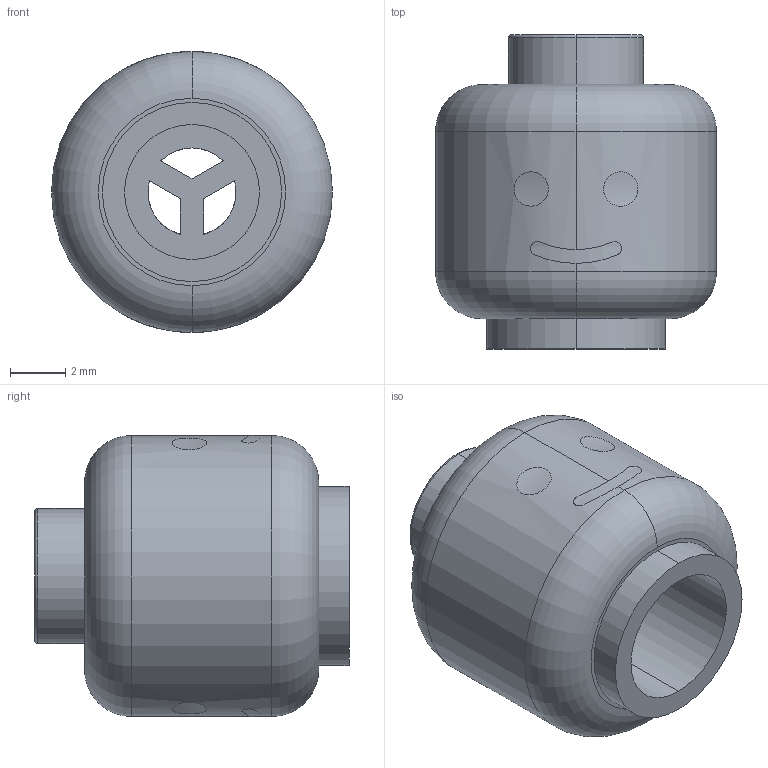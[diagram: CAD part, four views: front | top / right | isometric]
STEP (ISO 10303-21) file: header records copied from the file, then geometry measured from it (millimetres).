
FILE_DESCRIPTION (( 'STEP AP203' ), '1' );
FILE_NAME ('Lego Character - Head.STEP', '2015-12-11T18:41:49', ( '' ), ( '' ), 'SwSTEP 2.0', 'SolidWorks 2014', '' );
FILE_SCHEMA (( 'CONFIG_CONTROL_DESIGN' ));
Length unit declared in the file: millimetre
Products named in the file (2): Lego Character - Head
Bounding box: 10.2 x 11.4 x 10.2 mm (x, y, z)
Volume: 547.9 mm3; surface area: 591.6 mm2
Topology: 1 solids, 1 shells, 37 faces, 96 edges, 66 vertices
Faces by surface type: cylinder 17, plane 12, torus 8
Entity records: 1459 total; most frequent: CARTESIAN_POINT 373, DIRECTION 196, ORIENTED_EDGE 192, EDGE_CURVE 96, AXIS2_PLACEMENT_3D 81, VERTEX_POINT 66, EDGE_LOOP 48, CIRCLE 42
